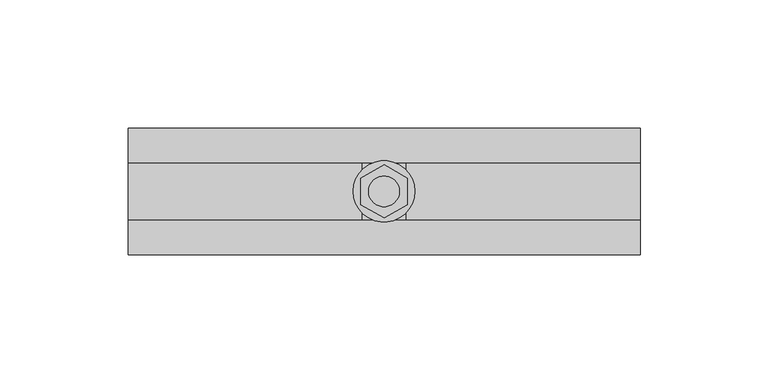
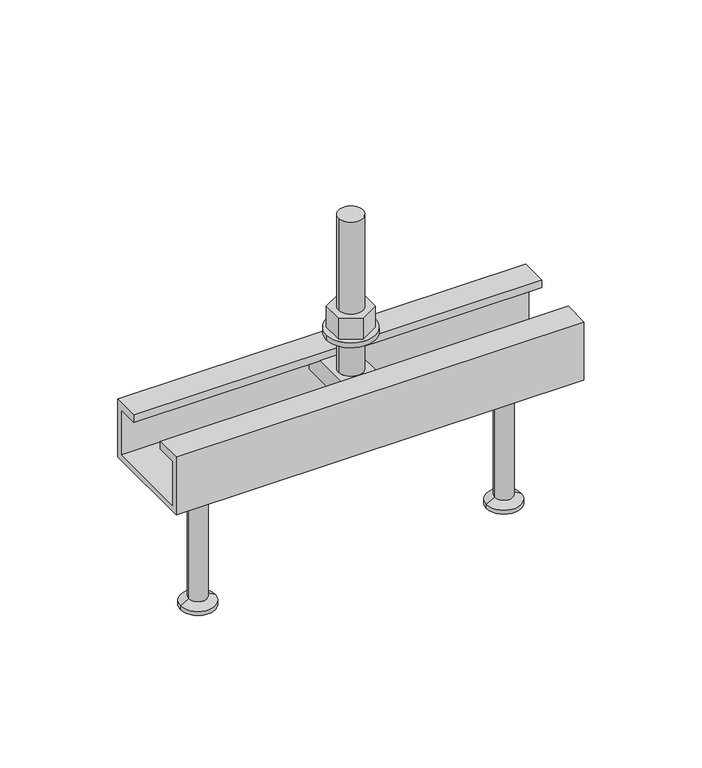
"""IFC4 building model written with IfcOpenShell, lengths in millimetres: fastener geometry, JTA-W JORDAHL® AnchorChannels : JTA-W L=200 mm."""

from ifc_helpers import new_model, si_unit, point, frame, frame_2d, origin, place, context, project, spatial, polyline, circle_curve, trimmed, segment, composite_curve, outline, extrude, source, transform, mapped, element, save
from ifc_brep_helpers import plane_surface, cylinder_surface, revolved_surface, advanced_brep


def fastener_2f8d67ed(model_context):
    return source(origin(), model_context, "Body", "SolidModel", [
        extrude(outline(polyline([(100.0, -10.3923048), (91.0, -5.1961524), (91.0, 5.1961524), (100.0, 10.3923048), (109.0, 5.1961524), (109.0, -5.1961524), (100.0, -10.3923048)]), holes=[composite_curve([segment(trimmed(circle_curve(frame_2d((100.0, 0.0)), 6.0), [point((94.0, 0.0))], [point((106.0, 0.0))], True, "CARTESIAN"), True, "CONTINUOUS"), segment(trimmed(circle_curve(frame_2d((100.0, 0.0)), 6.0), [point((106.0, 0.0))], [point((94.0, 0.0))], True, "CARTESIAN"), True, "CONTINUOUS")], self_intersect=False)]), frame((0.0, 0.0, 17.5), z_axis=(0.0, 0.0, 1.0), x_axis=(1.0, 0.0, 0.0)), (0.0, 0.0, 1.0), 10.8),
        extrude(outline(composite_curve([segment(trimmed(circle_curve(frame_2d((100.0, 0.0)), 12.0), [point((88.0, 0.0))], [point((112.0, 0.0))], False, "CARTESIAN"), True, "CONTINUOUS"), segment(trimmed(circle_curve(frame_2d((100.0, 0.0)), 12.0), [point((112.0, 0.0))], [point((88.0, 0.0))], False, "CARTESIAN"), True, "CONTINUOUS")], self_intersect=False), holes=[composite_curve([segment(trimmed(circle_curve(frame_2d((100.0, 0.0)), 6.5), [point((93.5, 0.0))], [point((106.5, 0.0))], True, "CARTESIAN"), True, "CONTINUOUS"), segment(trimmed(circle_curve(frame_2d((100.0, 0.0)), 6.5), [point((106.5, 0.0))], [point((93.5, 0.0))], True, "CARTESIAN"), True, "CONTINUOUS")], self_intersect=False)]), frame((0.0, 0.0, 15.0), z_axis=(0.0, 0.0, 1.0), x_axis=(1.0, 0.0, 0.0)), (0.0, 0.0, 1.0), 2.5),
        advanced_brep(
        [(108.5, -20.7, -4.0), (108.5, -20.7, -14.0), (108.5, 20.7, -14.0), (108.5, 20.7, -4.0), (91.5, -20.7, -4.0), (91.5, 20.7, -4.0), (91.5, 20.7, -14.0), (91.5, -20.7, -14.0), (106.0, 0.0, -4.0), (94.0, 0.0, -4.0), (94.0, 0.0, 76.0), (106.0, 0.0, 76.0)],
        [
            (0, 1),
            (1, 2),
            (2, 3),
            (3, 0),
            (4, 5),
            (5, 6),
            (6, 7),
            (7, 4),
            (3, 5),
            (4, 0),
            (8, 9, circle_curve(frame((100.0, 0.0, -4.0), z_axis=(0.0, 0.0, -1.0), x_axis=(1.0, 0.0, 0.0)), 6.0)),
            (9, 8, circle_curve(frame((100.0, 0.0, -4.0), z_axis=(0.0, 0.0, -1.0), x_axis=(1.0, 0.0, 0.0)), 6.0)),
            (2, 6),
            (1, 7),
            (10, 11, circle_curve(frame((100.0, 0.0, 76.0), z_axis=(0.0, 0.0, 1.0), x_axis=(1.0, 0.0, 0.0)), 6.0)),
            (11, 10, circle_curve(frame((100.0, 0.0, 76.0), z_axis=(0.0, 0.0, 1.0), x_axis=(1.0, 0.0, 0.0)), 6.0)),
            (11, 8),
            (9, 10),
        ],
        [
            plane_surface(frame((108.5, 20.7, -4.0), z_axis=(1.0, 0.0, 0.0), x_axis=(0.0, 1.0, 0.0))),
            plane_surface(frame((91.5, 20.7, -4.0), z_axis=(-1.0, 0.0, 0.0), x_axis=(0.0, -1.0, 0.0))),
            plane_surface(frame((108.5, -20.7, -4.0), z_axis=(0.0, 0.0, 1.0), x_axis=(-1.0, 0.0, 0.0))),
            plane_surface(frame((108.5, 20.7, -4.0), z_axis=(0.0, 1.0, 0.0), x_axis=(-1.0, 0.0, 0.0))),
            plane_surface(frame((108.5, 20.7, -14.0), z_axis=(0.0, 0.0, -1.0), x_axis=(-1.0, 0.0, 0.0))),
            plane_surface(frame((108.5, -20.7, -14.0), z_axis=(0.0, -1.0, 0.0), x_axis=(-1.0, 0.0, 0.0))),
            plane_surface(frame((106.0, 0.0, 76.0), z_axis=(0.0, 0.0, 1.0), x_axis=(0.0, -1.0, 0.0))),
            cylinder_surface(frame((100.0, 0.0, -4.0), z_axis=(0.0, 0.0, 1.0), x_axis=(1.0, 0.0, 0.0)), 6.0),
        ],
        [
            (0, [[1, 2, 3, 4]]),
            (1, [[5, 6, 7, 8]]),
            (2, [[9, -5, 10, -4], [11, 12]]),
            (3, [[13, -6, -9, -3]]),
            (4, [[14, -7, -13, -2]]),
            (5, [[-10, -8, -14, -1]]),
            (6, [[15, 16]]),
            (7, [[17, -12, 18, -16]]),
            (7, [[-18, -11, -17, -15]]),
        ],
    ),
        advanced_brep(
        [(175.0, 0.0, -30.0), (161.5, 0.0, -30.0), (188.5, 0.0, -30.0), (166.5, 0.0, -100.0), (175.0, 0.0, -100.0), (183.5, 0.0, -100.0), (166.5, 0.0, -98.0), (183.5, 0.0, -98.0), (170.5, 0.0, -95.6905989), (179.5, 0.0, -95.6905989), (170.5, 0.0, -32.5), (179.5, 0.0, -32.5)],
        [
            (0, 1),
            (1, 2, circle_curve(frame((175.0, 0.0, -30.0), z_axis=(0.0, 0.0, 1.0), x_axis=(1.0, 0.0, 0.0)), 13.5)),
            (2, 0),
            (2, 1, circle_curve(frame((175.0, 0.0, -30.0), z_axis=(0.0, 0.0, 1.0), x_axis=(1.0, 0.0, 0.0)), 13.5)),
            (3, 4),
            (4, 5),
            (5, 3, circle_curve(frame((175.0, 0.0, -100.0), z_axis=(0.0, 0.0, -1.0), x_axis=(1.0, 0.0, 0.0)), 8.5)),
            (3, 5, circle_curve(frame((175.0, 0.0, -100.0), z_axis=(0.0, 0.0, -1.0), x_axis=(1.0, 0.0, 0.0)), 8.5)),
            (6, 3),
            (5, 7),
            (7, 6, circle_curve(frame((175.0, 0.0, -98.0), z_axis=(0.0, 0.0, -1.0), x_axis=(1.0, 0.0, 0.0)), 8.5)),
            (6, 7, circle_curve(frame((175.0, 0.0, -98.0), z_axis=(0.0, 0.0, -1.0), x_axis=(1.0, 0.0, 0.0)), 8.5)),
            (8, 6),
            (7, 9),
            (9, 8, circle_curve(frame((175.0, 0.0, -95.6905989), z_axis=(0.0, 0.0, -1.0), x_axis=(1.0, 0.0, 0.0)), 4.5)),
            (8, 9, circle_curve(frame((175.0, 0.0, -95.6905989), z_axis=(0.0, 0.0, -1.0), x_axis=(1.0, 0.0, 0.0)), 4.5)),
            (10, 8),
            (9, 11),
            (11, 10, circle_curve(frame((175.0, 0.0, -32.5), z_axis=(0.0, 0.0, -1.0), x_axis=(1.0, 0.0, 0.0)), 4.5)),
            (10, 11, circle_curve(frame((175.0, 0.0, -32.5), z_axis=(0.0, 0.0, -1.0), x_axis=(1.0, 0.0, 0.0)), 4.5)),
            (1, 10),
            (11, 2),
        ],
        [
            plane_surface(frame((175.0, 0.0, -30.0), z_axis=(0.0, 0.0, 1.0), x_axis=(1.0, 0.0, 0.0))),
            plane_surface(frame((175.0, 0.0, -100.0), z_axis=(0.0, 0.0, -1.0), x_axis=(1.0, 0.0, 0.0))),
            cylinder_surface(frame((175.0, 0.0, 2284.3150031), z_axis=(0.0, 0.0, 1.0), x_axis=(1.0, 0.0, 0.0)), 8.5),
            revolved_surface(polyline([(183.5, 0.0, -98.0), (179.5, 0.0, -95.6905989)]), (175.0, 0.0, 2284.3150031), (0.0, 0.0, 1.0)),
            cylinder_surface(frame((175.0, 0.0, 2284.3150031), z_axis=(0.0, 0.0, 1.0), x_axis=(1.0, 0.0, 0.0)), 4.5),
            revolved_surface(polyline([(179.5, 0.0, -32.5), (188.5, 0.0, -30.0)]), (175.0, 0.0, 2284.3150031), (0.0, 0.0, 1.0)),
        ],
        [
            (0, [[1, 2, 3]]),
            (0, [[-3, 4, -1]]),
            (1, [[5, 6, 7]]),
            (1, [[-6, -5, 8]]),
            (2, [[9, -7, 10, 11]]),
            (2, [[-10, -8, -9, 12]]),
            (3, [[13, -11, 14, 15]]),
            (3, [[-14, -12, -13, 16]]),
            (4, [[17, -15, 18, 19]]),
            (4, [[-18, -16, -17, 20]]),
            (5, [[21, -19, 22, -2]]),
            (5, [[-22, -20, -21, -4]]),
        ],
    ),
        advanced_brep(
        [(25.0, 0.0, -30.0), (11.5, 0.0, -30.0), (38.5, 0.0, -30.0), (16.5, 0.0, -100.0), (25.0, 0.0, -100.0), (33.5, 0.0, -100.0), (16.5, 0.0, -98.0), (33.5, 0.0, -98.0), (20.5, 0.0, -95.6905989), (29.5, 0.0, -95.6905989), (20.5, 0.0, -32.5), (29.5, 0.0, -32.5)],
        [
            (0, 1),
            (1, 2, circle_curve(frame((25.0, 0.0, -30.0), z_axis=(0.0, 0.0, 1.0), x_axis=(1.0, 0.0, 0.0)), 13.5)),
            (2, 0),
            (2, 1, circle_curve(frame((25.0, 0.0, -30.0), z_axis=(0.0, 0.0, 1.0), x_axis=(1.0, 0.0, 0.0)), 13.5)),
            (3, 4),
            (4, 5),
            (5, 3, circle_curve(frame((25.0, 0.0, -100.0), z_axis=(0.0, 0.0, -1.0), x_axis=(1.0, 0.0, 0.0)), 8.5)),
            (3, 5, circle_curve(frame((25.0, 0.0, -100.0), z_axis=(0.0, 0.0, -1.0), x_axis=(1.0, 0.0, 0.0)), 8.5)),
            (6, 3),
            (5, 7),
            (7, 6, circle_curve(frame((25.0, 0.0, -98.0), z_axis=(0.0, 0.0, -1.0), x_axis=(1.0, 0.0, 0.0)), 8.5)),
            (6, 7, circle_curve(frame((25.0, 0.0, -98.0), z_axis=(0.0, 0.0, -1.0), x_axis=(1.0, 0.0, 0.0)), 8.5)),
            (8, 6),
            (7, 9),
            (9, 8, circle_curve(frame((25.0, 0.0, -95.6905989), z_axis=(0.0, 0.0, -1.0), x_axis=(1.0, 0.0, 0.0)), 4.5)),
            (8, 9, circle_curve(frame((25.0, 0.0, -95.6905989), z_axis=(0.0, 0.0, -1.0), x_axis=(1.0, 0.0, 0.0)), 4.5)),
            (10, 8),
            (9, 11),
            (11, 10, circle_curve(frame((25.0, 0.0, -32.5), z_axis=(0.0, 0.0, -1.0), x_axis=(1.0, 0.0, 0.0)), 4.5)),
            (10, 11, circle_curve(frame((25.0, 0.0, -32.5), z_axis=(0.0, 0.0, -1.0), x_axis=(1.0, 0.0, 0.0)), 4.5)),
            (1, 10),
            (11, 2),
        ],
        [
            plane_surface(frame((25.0, 0.0, -30.0), z_axis=(0.0, 0.0, 1.0), x_axis=(1.0, 0.0, 0.0))),
            plane_surface(frame((25.0, 0.0, -100.0), z_axis=(0.0, 0.0, -1.0), x_axis=(1.0, 0.0, 0.0))),
            cylinder_surface(frame((25.0, 0.0, 2284.3150031), z_axis=(0.0, 0.0, 1.0), x_axis=(1.0, 0.0, 0.0)), 8.5),
            revolved_surface(polyline([(33.5, 0.0, -98.0), (29.5, 0.0, -95.6905989)]), (25.0, 0.0, 2284.3150031), (0.0, 0.0, 1.0)),
            cylinder_surface(frame((25.0, 0.0, 2284.3150031), z_axis=(0.0, 0.0, 1.0), x_axis=(1.0, 0.0, 0.0)), 4.5),
            revolved_surface(polyline([(29.5, 0.0, -32.5), (38.5, 0.0, -30.0)]), (25.0, 0.0, 2284.3150031), (0.0, 0.0, 1.0)),
        ],
        [
            (0, [[1, 2, 3]]),
            (0, [[-3, 4, -1]]),
            (1, [[5, 6, 7]]),
            (1, [[-6, -5, 8]]),
            (2, [[9, -7, 10, 11]]),
            (2, [[-10, -8, -9, 12]]),
            (3, [[13, -11, 14, 15]]),
            (3, [[-14, -12, -13, 16]]),
            (4, [[17, -15, 18, 19]]),
            (4, [[-18, -16, -17, 20]]),
            (5, [[21, -19, 22, -2]]),
            (5, [[-22, -20, -21, -4]]),
        ],
    ),
        extrude(outline(polyline([(-24.75, 0.0), (-11.25, 0.0), (-11.25, -4.0), (-21.95, -4.0), (-21.95, -27.2), (21.95, -27.2), (21.95, -4.0), (11.25, -4.0), (11.25, 0.0), (24.75, 0.0), (24.75, -30.0), (-24.75, -30.0), (-24.75, 0.0)])), frame((0.0, 0.0, 0.0), z_axis=(1.0, 0.0, 0.0), x_axis=(0.0, 1.0, 0.0)), (0.0, 0.0, 1.0), 200.0),
    ])


if __name__ == "__main__":
    model = new_model("IFC4")
    model_context = context("Model", 3, world=origin())
    ifc_project = project(units=[si_unit("LENGTHUNIT", "METRE", prefix="MILLI")], contexts=[model_context])
    site = spatial("IfcSite", under=ifc_project)
    building = spatial("IfcBuilding", under=site)
    placement = place(None, origin())
    fastener_shape = fastener_2f8d67ed(model_context)
    element("IfcFastener", 1, ObjectType="JTA-W JORDAHL® AnchorChannels : JTA-W L=200 mm", at=placement, inside=building, context=model_context, shape_type="MappedRepresentation", body=[
        mapped(fastener_shape, transform((0.0, 0.0, 0.0), x_axis=(1.0, 0.0, 0.0), y_axis=(0.0, 1.0, 0.0), z_axis=(0.0, 0.0, 1.0))),
    ])
    save(model, "model.ifc")
